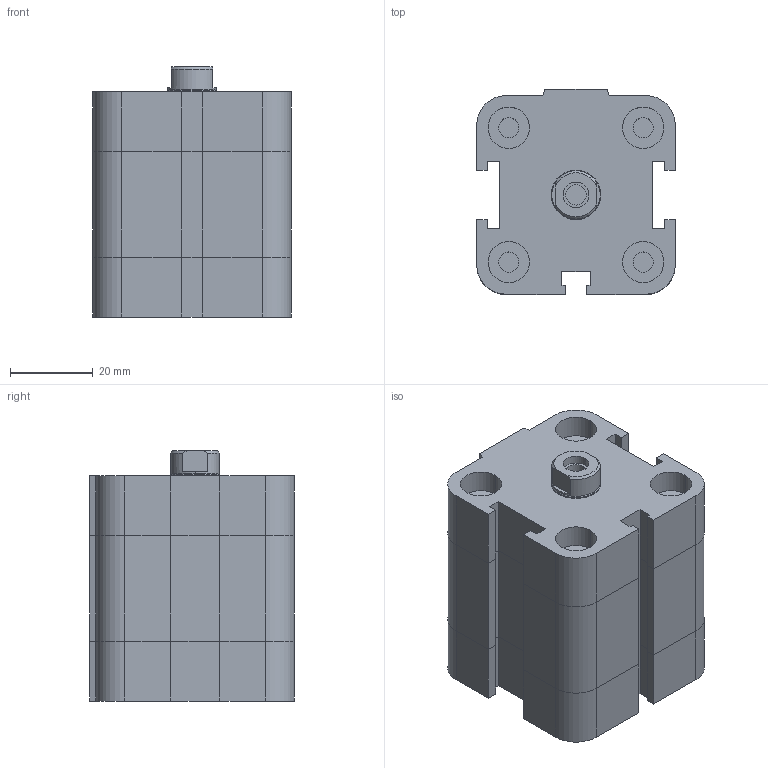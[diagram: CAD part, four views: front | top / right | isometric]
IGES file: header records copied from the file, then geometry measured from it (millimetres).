
Global section: file name: No Iges File Name specified; native system: Autodesk Inventor 2009; preprocessor: AutoDesk Inventor Iges Exporter R2009; author: rivolro1; date: 20081219.152204; units: millimetre
Bounding box: 48 x 49.5 x 60.5 mm (x, y, z)
Volume: 108287 mm3; surface area: 23193.8 mm2
Topology: 2 solids, 2 shells, 187 faces, 410 edges, 248 vertices
Faces by surface type: plane 112, bspline 39, revolution 16, cylinder 16, cone 4
